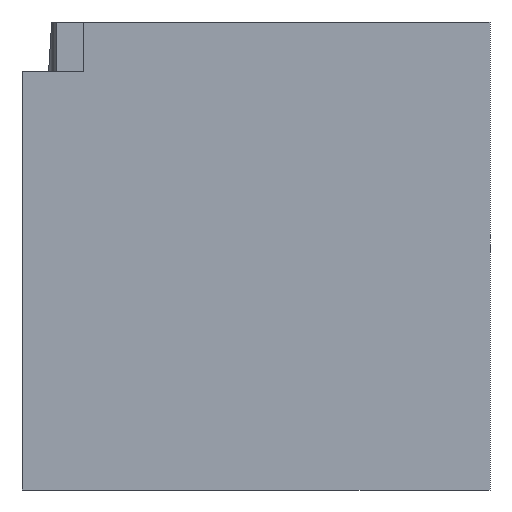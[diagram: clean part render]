
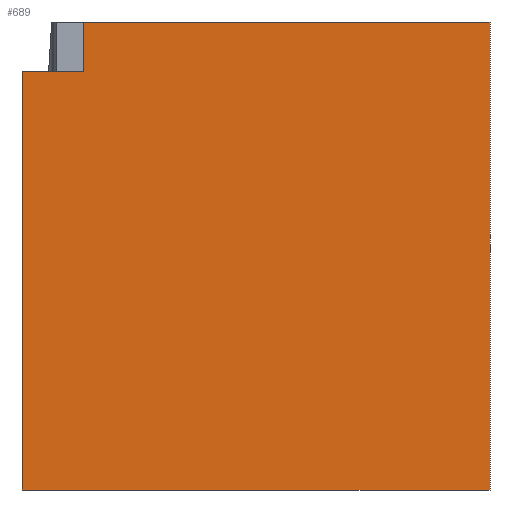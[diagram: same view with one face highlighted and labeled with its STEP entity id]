
A CAD part, left-side view. The second image highlights one B-rep face of the part: STEP entity #689.
In plain terms, the highlighted planar face has unit normal (-1, 0, 0).
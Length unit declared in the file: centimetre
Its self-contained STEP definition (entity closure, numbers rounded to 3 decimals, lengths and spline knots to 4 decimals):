
#12 = EDGE_CURVE ( 'NONE', #81, #568, #447, .T. ) ;
#20 = CARTESIAN_POINT ( 'NONE',  ( 0., 868.5456, 1000. ) ) ;
#36 = VERTEX_POINT ( 'NONE', #336 ) ;
#43 = EDGE_CURVE ( 'NONE', #474, #610, #50, .T. ) ;
#49 = VECTOR ( 'NONE', #688, 100. ) ;
#50 = LINE ( 'NONE', #103, #49 ) ;
#55 = ORIENTED_EDGE ( 'NONE', *, *, #326, .F. ) ;
#57 = VECTOR ( 'NONE', #105, 100. ) ;
#58 = CARTESIAN_POINT ( 'NONE',  ( 0., 1000., 1000. ) ) ;
#81 = VERTEX_POINT ( 'NONE', #20 ) ;
#103 = CARTESIAN_POINT ( 'NONE',  ( 0., 868.5456, 893.1663 ) ) ;
#105 = DIRECTION ( 'NONE',  ( 0., 0., -1. ) ) ;
#119 = CARTESIAN_POINT ( 'NONE',  ( 0., 0., 1000. ) ) ;
#160 = LINE ( 'NONE', #58, #586 ) ;
#168 = DIRECTION ( 'NONE',  ( 0., 0., -1. ) ) ;
#198 = FACE_OUTER_BOUND ( 'NONE', #482, .T. ) ;
#216 = CARTESIAN_POINT ( 'NONE',  ( 0., 1000., 1000. ) ) ;
#231 = EDGE_CURVE ( 'NONE', #474, #36, #160, .T. ) ;
#256 = ORIENTED_EDGE ( 'NONE', *, *, #571, .T. ) ;
#286 = DIRECTION ( 'NONE',  ( 0., -1., 0. ) ) ;
#312 = DIRECTION ( 'NONE',  ( 1., 0., 0. ) ) ;
#326 = EDGE_CURVE ( 'NONE', #568, #423, #637, .T. ) ;
#327 = CARTESIAN_POINT ( 'NONE',  ( 0., 1000., 893.1663 ) ) ;
#329 = ORIENTED_EDGE ( 'NONE', *, *, #43, .F. ) ;
#336 = CARTESIAN_POINT ( 'NONE',  ( 0., 1000., 0. ) ) ;
#348 = EDGE_CURVE ( 'NONE', #610, #81, #351, .T. ) ;
#351 = LINE ( 'NONE', #697, #615 ) ;
#352 = CARTESIAN_POINT ( 'NONE',  ( 0., 0., 1000. ) ) ;
#369 = AXIS2_PLACEMENT_3D ( 'NONE', #675, #312, #372 ) ;
#372 = DIRECTION ( 'NONE',  ( 0., 0., -1. ) ) ;
#417 = CARTESIAN_POINT ( 'NONE',  ( 0., 1000., 0. ) ) ;
#423 = VERTEX_POINT ( 'NONE', #557 ) ;
#445 = DIRECTION ( 'NONE',  ( 0., 0., 1. ) ) ;
#447 = LINE ( 'NONE', #216, #470 ) ;
#470 = VECTOR ( 'NONE', #679, 100. ) ;
#474 = VERTEX_POINT ( 'NONE', #327 ) ;
#482 = EDGE_LOOP ( 'NONE', ( #624, #329, #625, #256, #55, #580 ) ) ;
#557 = CARTESIAN_POINT ( 'NONE',  ( 0., 0., 0. ) ) ;
#568 = VERTEX_POINT ( 'NONE', #352 ) ;
#571 = EDGE_CURVE ( 'NONE', #36, #423, #698, .T. ) ;
#580 = ORIENTED_EDGE ( 'NONE', *, *, #12, .F. ) ;
#586 = VECTOR ( 'NONE', #168, 100. ) ;
#610 = VERTEX_POINT ( 'NONE', #708 ) ;
#615 = VECTOR ( 'NONE', #445, 100. ) ;
#624 = ORIENTED_EDGE ( 'NONE', *, *, #348, .F. ) ;
#625 = ORIENTED_EDGE ( 'NONE', *, *, #231, .T. ) ;
#637 = LINE ( 'NONE', #119, #57 ) ;
#660 = PLANE ( 'NONE',  #369 ) ;
#667 = VECTOR ( 'NONE', #286, 100. ) ;
#675 = CARTESIAN_POINT ( 'NONE',  ( 0., 1000., 1000. ) ) ;
#679 = DIRECTION ( 'NONE',  ( 0., -1., 0. ) ) ;
#688 = DIRECTION ( 'NONE',  ( 0., -1., 0. ) ) ;
#689 = ADVANCED_FACE ( 'NONE', ( #198 ), #660, .F. ) ;
#697 = CARTESIAN_POINT ( 'NONE',  ( 0., 868.5456, 893.1663 ) ) ;
#698 = LINE ( 'NONE', #417, #667 ) ;
#708 = CARTESIAN_POINT ( 'NONE',  ( 0., 868.5456, 893.1663 ) ) ;
